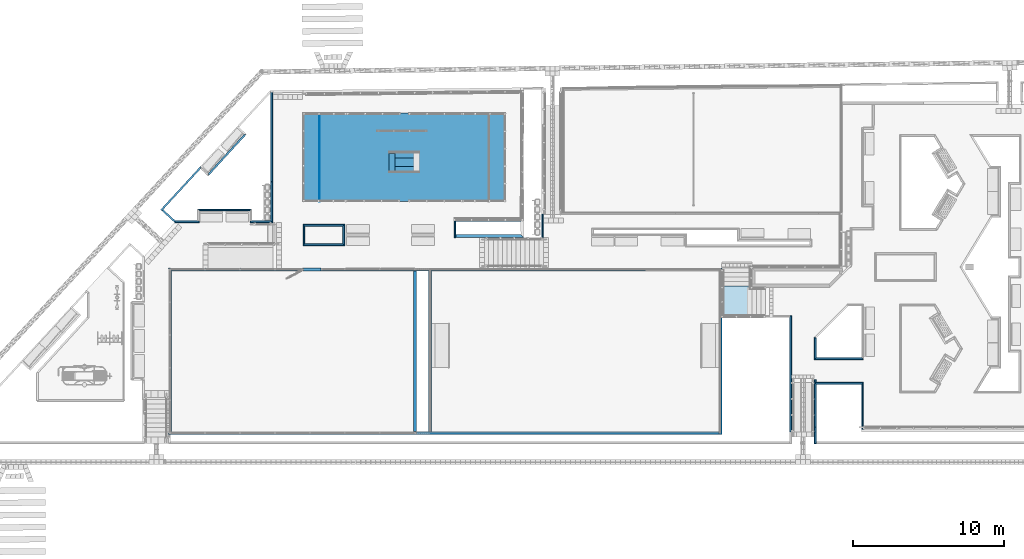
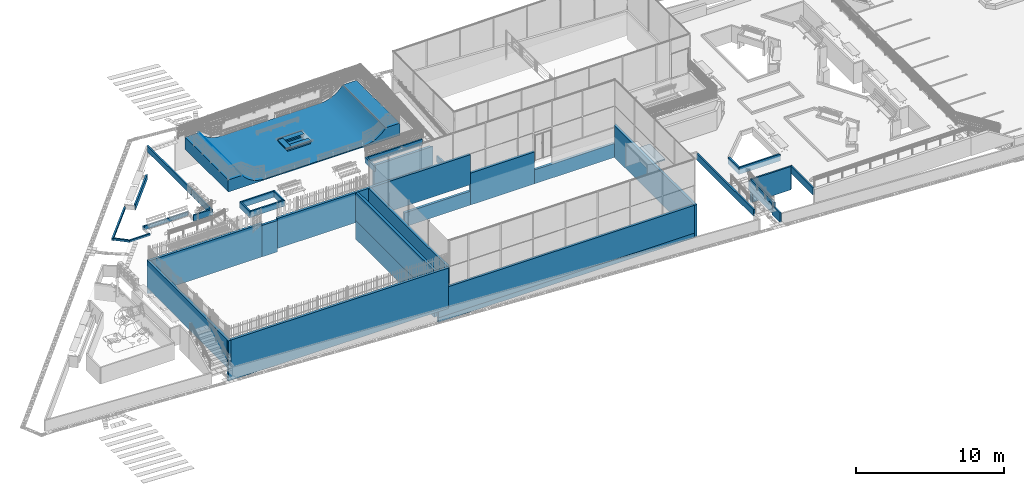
# One storey, part 17 of 237: 42 walls, 1 slab, 1 element without a shape of its own.
"""IFC2X3 building model written with IfcOpenShell, lengths in millimetres."""

from ifc_helpers import new_model, entity, si_unit, converted_unit, derived_unit, money_unit, point, direction, frame, frame_2d, origin_with_axes, place, context, subcontext, project, spatial, polyline, circle_curve, parameter, trimmed, segment, composite_curve, outline, extrude, faceted_brep, material, layer, layer_set, layer_usage, type_object, element, aggregate, save


model = new_model("IFC2X3")

# Units and contexts
model_context = context("Model", 3, precision=0.01, world=origin_with_axes(), true_north=direction((0.0, 1.0)))
body_context = subcontext(model_context, "Body", "Model", "MODEL_VIEW")
ifc_project = project(units=[si_unit("LENGTHUNIT", "METRE", prefix="MILLI"), si_unit("AREAUNIT", "SQUARE_METRE"), si_unit("VOLUMEUNIT", "CUBIC_METRE"), converted_unit("PLANEANGLEUNIT", "DEGREE", entity("IfcPlaneAngleMeasure", 0.0174532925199), si_unit("PLANEANGLEUNIT", "RADIAN"), dimensions=[0, 0, 0, 0, 0, 0, 0]), money_unit("USD"), converted_unit("TIMEUNIT", "Year", entity("IfcTimeMeasure", 31556926.0), si_unit("TIMEUNIT", "SECOND"), dimensions=[0, 0, 1, 0, 0, 0, 0]), si_unit("MASSUNIT", "GRAM", prefix="KILO"), si_unit("THERMODYNAMICTEMPERATUREUNIT", "DEGREE_CELSIUS"), si_unit("LUMINOUSINTENSITYUNIT", "LUMEN"), si_unit("ENERGYUNIT", "JOULE", prefix="MEGA"), derived_unit("THERMALCONDUCTANCEUNIT", [(si_unit("POWERUNIT", "WATT"), 1), (si_unit("LENGTHUNIT", "METRE"), -1), (si_unit("THERMODYNAMICTEMPERATUREUNIT", "KELVIN"), -1)]), derived_unit("SPECIFICHEATCAPACITYUNIT", [(si_unit("ENERGYUNIT", "JOULE"), 1), (si_unit("MASSUNIT", "GRAM", prefix="KILO"), -1), (si_unit("THERMODYNAMICTEMPERATUREUNIT", "KELVIN"), -1)]), derived_unit("MASSDENSITYUNIT", [(si_unit("MASSUNIT", "GRAM", prefix="KILO"), 1), (si_unit("VOLUMEUNIT", "CUBIC_METRE"), -1)])], contexts=[model_context])

# Site, building, storey
site_placement = place(None, origin_with_axes())
site = spatial("IfcSite", under=ifc_project, at=site_placement, Name="Local", CompositionType="ELEMENT")
building_placement = place(site_placement, origin_with_axes())
building = spatial("IfcBuilding", under=site, at=building_placement, Name="Construção", CompositionType="ELEMENT")
storey_placement = place(building_placement, origin_with_axes())
storey = spatial("IfcBuildingStorey", under=building, at=storey_placement, Name="Pavimento Térreo", CompositionType="ELEMENT", Elevation=0.0)

# Stair, slab
stair_placement = place(storey_placement, frame((81668.9594957, 22372.4191106, -5007.05726823), z_axis=(0.0, 0.0, 1.0), x_axis=(1.0, 0.0, 0.0)))
stair = element("IfcStair", 1, at=stair_placement, inside=storey, Name="Escada - 008", ShapeType="NOTDEFINED")
ifc_material_1 = material(Name="Concreto - Estrutural")
slab_type = type_object("IfcSlabType", Name="IfcSlab", PredefinedType="LANDING")
slab_placement = place(stair_placement, origin_with_axes())
slab = element("IfcSlab", 2, at=slab_placement, type_object=slab_type, material=ifc_material_1, Name="Patamar - 003", PredefinedType="LANDING", context=body_context, shape_type="Brep", body=[
    faceted_brep([(-899.999985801, 71.7544887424, 541.666666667), (-899.999985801, 71.7544887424, 641.666666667), (-899.999987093, 6.52813847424e-06, 641.666666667), (-899.999987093, 6.85454537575e-06, 541.666666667), (-2900.0, 71.7544887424, 641.666666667), (-2900.0, 71.7544887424, 541.666666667), (-2900.0, -2000.0, 641.666666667), (-914.999987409, -2000.0, 641.666666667), (-914.999987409, 6.85454537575e-06, 641.666666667), (-914.999987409, 6.85454537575e-06, 541.666666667), (-914.999987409, -2000.0, 541.666666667), (-2900.0, -2000.0, 541.666666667)], [[[0, 1, 2, 3]], [[4, 1, 0, 5]], [[1, 4, 6, 7, 8, 2]], [[9, 3, 2, 8]], [[5, 0, 3, 9, 10, 11]], [[4, 5, 11, 6]], [[11, 10, 7, 6]], [[9, 8, 7, 10]]]),
])
aggregate(stair, [slab])

# Walls
ifc_material_2 = material(Name="Bloco de Concreto - Estrutural")
ifc_layer_1 = layer(ifc_material_2, 120.0, ventilated="UNKNOWN")
ifc_layer_set_1 = layer_set([ifc_layer_1], Name="Bloco de Concreto - Estrutural 120")
ifc_layer_usage_1 = layer_usage(ifc_layer_set_1, "AXIS2", "NEGATIVE", 0.0)
wall_type_1 = type_object("IfcWallType", Name="Bloco de Concreto - Estrutural 120", PredefinedType="NOTDEFINED")
wall_1_placement = place(storey_placement, frame((53812.4441734, 26411.4515614, -1711.45174039), z_axis=(0.0, 0.0, 1.0), x_axis=(-1.0, 0.0, 0.0)))
element("IfcWallStandardCase", 3, at=wall_1_placement, inside=storey, type_object=wall_type_1, material=ifc_layer_usage_1, Name="Parede-086", context=body_context, shape_type="SweptSolid", body=[
    extrude(outline(polyline([(0.0, -120.0), (2750.00008075, -120.0), (2630.00008075, 0.0), (120.0, 0.0), (0.0, -120.0)])), origin_with_axes(), (0.0, 0.0, 1.0), 504.343543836),
])
ifc_layer_usage_2 = layer_usage(ifc_layer_set_1, "AXIS2", "NEGATIVE", 0.0)
wall_2_placement = place(storey_placement, frame((85006.2568793, 13112.0330846, -6009.33939984), z_axis=(0.0, 0.0, 1.0), x_axis=(1.30507928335e-05, -0.999999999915, 0.0)))
element("IfcWallStandardCase", 4, at=wall_2_placement, inside=storey, type_object=wall_type_1, material=ifc_layer_usage_2, Name="Parede-082", context=body_context, shape_type="SweptSolid", body=[
    extrude(outline(polyline([(-0.00588125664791, -120.0), (1089.40741677, -120.0), (1089.40741677, 0.0), (0.0, 0.0), (-0.00588125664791, -120.0)])), origin_with_axes(), (0.0, 0.0, 1.0), 799.843552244),
])
ifc_layer_usage_3 = layer_usage(ifc_layer_set_1, "AXIS2", "NEGATIVE", 0.0)
wall_3_placement = place(storey_placement, frame((41637.2132185, 27508.3613701, -1730.08817949), z_axis=(0.0, 0.0, 1.0), x_axis=(0.677327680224, 0.735681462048, 0.0)))
element("IfcWallStandardCase", 5, at=wall_3_placement, inside=storey, type_object=wall_type_1, material=ifc_layer_usage_3, Name="Parede-084", context=body_context, shape_type="SweptSolid", body=[
    extrude(outline(polyline([(0.0, -120.0), (3780.59511982, -120.0), (3900.26200772, 0.0), (0.0, 0.0), (0.0, -120.0)])), origin_with_axes(), (0.0, 0.0, 1.0), 196.987064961),
])
ifc_layer_usage_4 = layer_usage(ifc_layer_set_1, "AXIS2", "NEGATIVE", 0.0)
wall_4_placement = place(storey_placement, frame((83386.4921498, 20493.3341518, -5383.27351783), z_axis=(0.0, 0.0, 1.0), x_axis=(0.0, -1.0, 0.0)))
element("IfcWallStandardCase", 6, at=wall_4_placement, inside=storey, type_object=wall_type_1, material=ifc_layer_usage_4, Name="Parede-082", context=body_context, shape_type="SweptSolid", body=[
    extrude(outline(polyline([(0.0, -120.0), (7701.52251985, -120.0), (7701.52251985, 0.0), (0.0, 0.0), (0.0, -120.0)])), origin_with_axes(), (0.0, 0.0, 1.0), 540.786490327),
])
ifc_layer_usage_5 = layer_usage(ifc_layer_set_1, "AXIS2", "NEGATIVE", 0.0)
wall_5_placement = place(storey_placement, frame((84885.9033442, 16072.6595143, -6768.39424695), z_axis=(0.0, 0.0, 1.0), x_axis=(0.999999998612, 5.26912942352e-05, 0.0)))
element("IfcWallStandardCase", 7, at=wall_5_placement, inside=storey, type_object=wall_type_1, material=ifc_layer_usage_5, Name="Parede-087", context=body_context, shape_type="SweptSolid", body=[
    extrude(outline(polyline([(120.011283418, -120.0), (3134.22519922, -120.0), (3254.22910147, 0.0), (0.0, 0.0), (120.011283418, -120.0)])), origin_with_axes(), (0.0, 0.0, 1.0), 1928.34884743),
])
ifc_layer_usage_6 = layer_usage(ifc_layer_set_1, "AXIS2", "NEGATIVE", 0.0)
wall_6_placement = place(storey_placement, frame((85006.4496786, 19179.1408867, -5402.07510216), z_axis=(0.0, 0.0, 1.0), x_axis=(2.57940339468e-05, -0.999999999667, 0.0)))
element("IfcWallStandardCase", 8, at=wall_6_placement, inside=storey, type_object=wall_type_1, material=ifc_layer_usage_6, Name="Parede-088", context=body_context, shape_type="SweptSolid", body=[
    extrude(outline(polyline([(119.993809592, -120.0), (1607.32317381, -120.0), (1487.32626905, 0.0), (169.701250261, 0.0), (119.993809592, -120.0)])), origin_with_axes(), (0.0, 0.0, 1.0), 562.02970265),
])
ifc_layer_usage_7 = layer_usage(ifc_layer_set_1, "AXIS2", "NEGATIVE", 0.0)
wall_7_placement = place(storey_placement, frame((41718.4928542, 27596.6434867, -1700.0), z_axis=(0.0, 0.0, 1.0), x_axis=(0.737561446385, -0.675280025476, 0.0)))
element("IfcWallStandardCase", 9, at=wall_7_placement, inside=storey, type_object=wall_type_1, material=ifc_layer_usage_7, Name="Parede-084", context=body_context, shape_type="SweptSolid", body=[
    extrude(outline(polyline([(119.666887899, -120.0), (1261.23155279, -120.0), (1214.59515715, 0.0), (120.000463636, 0.0), (119.666887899, -120.0)])), origin_with_axes(), (0.0, 0.0, 1.0), 166.898885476),
])
ifc_layer_usage_8 = layer_usage(ifc_layer_set_1, "AXIS2", "NEGATIVE", 0.0)
wall_8_placement = place(storey_placement, frame((84886.384695, 12791.8118634, -5402.07510216), z_axis=(0.0, 0.0, 1.0), x_axis=(-0.000146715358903, 0.999999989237, 0.0)))
element("IfcWallStandardCase", 10, at=wall_8_placement, inside=storey, type_object=wall_type_1, material=ifc_layer_usage_8, Name="Parede-084", context=body_context, shape_type="SweptSolid", body=[
    extrude(outline(polyline([(0.0, -120.0), (3160.83640278, -120.0), (3280.8476862, 0.0), (0.0, 0.0), (0.0, -120.0)])), origin_with_axes(), (0.0, 0.0, 1.0), 560.929574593),
])
ifc_layer_usage_9 = layer_usage(ifc_layer_set_1, "AXIS2", "NEGATIVE", 0.0)
wall_9_placement = place(storey_placement, frame((66962.5028921, 27192.3083888, -3852.41502407), z_axis=(0.0, 0.0, 1.0), x_axis=(0.0, -1.0, 0.0)))
element("IfcWallStandardCase", 11, at=wall_9_placement, inside=storey, type_object=wall_type_1, material=ifc_layer_usage_9, Name="Parede-088", context=body_context, shape_type="SweptSolid", body=[
    extrude(outline(polyline([(0.0, -120.0), (1534.58306973, -120.0), (1534.58306973, 0.0), (0.0, 0.0), (0.0, -120.0)])), origin_with_axes(), (0.0, 0.0, 1.0), 495.357755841),
])
ifc_layer_usage_10 = layer_usage(ifc_layer_set_1, "AXIS2", "NEGATIVE", 0.0)
wall_10_placement = place(storey_placement, frame((44062.4440926, 27549.1539562, -1700.0), z_axis=(0.0, 0.0, 1.0), x_axis=(1.0, 0.0, 0.0)))
element("IfcWallStandardCase", 12, at=wall_10_placement, inside=storey, type_object=wall_type_1, material=ifc_layer_usage_10, Name="Parede-084", context=body_context, shape_type="SweptSolid", body=[
    extrude(outline(polyline([(120.0, -120.0), (3496.80416232, -120.0), (3616.80416232, 0.0), (0.0, 0.0), (120.0, -120.0)])), origin_with_axes(), (0.0, 0.0, 1.0), 307.068162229),
])
ifc_layer_usage_11 = layer_usage(ifc_layer_set_1, "AXIS2", "NEGATIVE", 0.0)
wall_11_placement = place(storey_placement, frame((88020.1945794, 12992.5663135, -5402.07510216), z_axis=(0.0, 0.0, 1.0), x_axis=(-2.01730313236e-05, 0.999999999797, 0.0)))
element("IfcWallStandardCase", 13, at=wall_11_placement, inside=storey, type_object=wall_type_1, material=ifc_layer_usage_11, Name="Parede-084", context=body_context, shape_type="SweptSolid", body=[
    extrude(outline(polyline([(0.0, -120.0), (3080.26225014, -120.0), (2960.25834789, 0.0), (0.0, 0.0), (0.0, -120.0)])), origin_with_axes(), (0.0, 0.0, 1.0), 560.929574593),
])
ifc_layer_usage_12 = layer_usage(ifc_layer_set_1, "AXIS2", "NEGATIVE", 0.0)
wall_12_placement = place(storey_placement, frame((49062.4440926, 26656.451638, -1700.0), z_axis=(0.0, 0.0, 1.0), x_axis=(-1.0, 0.0, 0.0)))
element("IfcWallStandardCase", 14, at=wall_12_placement, inside=storey, type_object=wall_type_1, material=ifc_layer_usage_12, Name="Parede-087", context=body_context, shape_type="SweptSolid", body=[
    extrude(outline(polyline([(120.003520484, -120.0), (1503.19583768, -120.0), (1503.19583768, 0.0), (0.0, 0.0), (120.003520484, -120.0)])), origin_with_axes(), (0.0, 0.0, 1.0), 488.482714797),
])
ifc_layer_usage_13 = layer_usage(ifc_layer_set_1, "AXIS2", "NEGATIVE", 0.0)
wall_13_placement = place(storey_placement, frame((49062.3648833, 29356.4387409, -1700.0), z_axis=(0.0, 0.0, 1.0), x_axis=(2.93369396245e-05, -0.99999999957, 0.0)))
element("IfcWallStandardCase", 15, at=wall_13_placement, inside=storey, type_object=wall_type_1, material=ifc_layer_usage_13, Name="Parede-086", context=body_context, shape_type="SweptSolid", body=[
    extrude(outline(polyline([(1.68055933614e-05, -120.0), (2579.9835836, -120.0), (2699.98710409, 0.0), (0.0, 0.0), (1.68055933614e-05, -120.0)])), origin_with_axes(), (0.0, 0.0, 1.0), 488.482714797),
])
ifc_layer_usage_14 = layer_usage(ifc_layer_set_1, "AXIS2", "NEGATIVE", 0.0)
wall_14_placement = place(storey_placement, frame((44182.4440926, 26656.451638, -1700.0), z_axis=(0.0, 0.0, 1.0), x_axis=(-1.0, 0.0, 0.0)))
element("IfcWallStandardCase", 16, at=wall_14_placement, inside=storey, type_object=wall_type_1, material=ifc_layer_usage_14, Name="Parede-083", context=body_context, shape_type="SweptSolid", body=[
    extrude(outline(polyline([(0.0, -120.0), (1568.11267754, -120.0), (1614.74907318, 0.0), (0.0, 0.0), (0.0, -120.0)])), origin_with_axes(), (0.0, 0.0, 1.0), 166.898885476),
])
ifc_layer_usage_15 = layer_usage(ifc_layer_set_1, "AXIS2", "NEGATIVE", 0.0)
wall_15_placement = place(storey_placement, frame((85006.4880428, 17691.8146182, -5402.07510216), z_axis=(0.0, 0.0, 1.0), x_axis=(1.0, 0.0, 0.0)))
element("IfcWallStandardCase", 17, at=wall_15_placement, inside=storey, type_object=wall_type_1, material=ifc_layer_usage_15, Name="Parede-088", context=body_context, shape_type="SweptSolid", body=[
    extrude(outline(polyline([(-119.996904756, -120.0), (3133.55642019, -120.0), (3013.55642019, 0.0), (0.0, 0.0), (-119.996904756, -120.0)])), origin_with_axes(), (0.0, 0.0, 1.0), 562.02970265),
])
ifc_layer_usage_16 = layer_usage(ifc_layer_set_1, "AXIS2", "NEGATIVE", 0.0)
wall_16_placement = place(storey_placement, frame((51182.4440926, 26411.4515614, -1711.45174039), z_axis=(0.0, 0.0, 1.0), x_axis=(0.0, -1.0, 0.0)))
element("IfcWallStandardCase", 18, at=wall_16_placement, inside=storey, type_object=wall_type_1, material=ifc_layer_usage_16, Name="Parede-087", context=body_context, shape_type="SweptSolid", body=[
    extrude(outline(polyline([(-120.0, -120.0), (1279.99984684, -120.0), (1159.99984684, 0.0), (0.0, 0.0), (-120.0, -120.0)])), origin_with_axes(), (0.0, 0.0, 1.0), 504.343543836),
])
ifc_layer_usage_17 = layer_usage(ifc_layer_set_1, "AXIS2", "NEGATIVE", 0.0)
wall_17_placement = place(storey_placement, frame((51182.4440926, 25251.4517146, -1711.45174039), z_axis=(0.0, 0.0, 1.0), x_axis=(1.0, 0.0, 0.0)))
element("IfcWallStandardCase", 19, at=wall_17_placement, inside=storey, type_object=wall_type_1, material=ifc_layer_usage_17, Name="Parede-088", context=body_context, shape_type="SweptSolid", body=[
    extrude(outline(polyline([(-120.0, -120.0), (2630.00008075, -120.0), (2510.00008075, 0.0), (0.0, 0.0), (-120.0, -120.0)])), origin_with_axes(), (0.0, 0.0, 1.0), 504.343543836),
])
ifc_layer_usage_18 = layer_usage(ifc_layer_set_1, "AXIS2", "NEGATIVE", 0.0)
wall_18_placement = place(storey_placement, frame((61062.4474333, 25656.5254193, -1736.1121394), z_axis=(0.0, 0.0, 1.0), x_axis=(-0.000136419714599, 0.999999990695, 0.0)))
element("IfcWallStandardCase", 20, at=wall_18_placement, inside=storey, type_object=wall_type_1, material=ifc_layer_usage_18, Name="Parede-088", context=body_context, shape_type="SweptSolid", body=[
    extrude(outline(polyline([(0.0, -120.0), (1186.47542196, -120.0), (1186.47542196, 0.0), (0.0, 0.0), (0.0, -120.0)])), origin_with_axes(), (0.0, 0.0, 1.0), 501.230381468),
])
ifc_layer_usage_19 = layer_usage(ifc_layer_set_1, "AXIS2", "NEGATIVE", 0.0)
wall_19_placement = place(storey_placement, frame((65467.09706, 26725.2286527, -1736.1121394), z_axis=(0.0, 0.0, 1.0), x_axis=(-0.999999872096, -0.000505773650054, 0.0)))
element("IfcWallStandardCase", 21, at=wall_19_placement, inside=storey, type_object=wall_type_1, material=ifc_layer_usage_19, Name="Parede-090", context=body_context, shape_type="SweptSolid", body=[
    extrude(outline(polyline([(0.0, -120.0), (4404.75135586, -120.0), (4404.75135586, 0.0), (0.0, 0.0), (0.0, -120.0)])), origin_with_axes(), (0.0, 0.0, 1.0), 501.230381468),
])
ifc_layer_usage_20 = layer_usage(ifc_layer_set_1, "AXIS2", "NEGATIVE", 0.0)
wall_20_placement = place(storey_placement, frame((53812.4441734, 26411.4515614, -1711.45174039), z_axis=(0.0, 0.0, 1.0), x_axis=(0.0, -1.0, 0.0)))
element("IfcWallStandardCase", 22, at=wall_20_placement, inside=storey, type_object=wall_type_1, material=ifc_layer_usage_20, Name="Parede-086", context=body_context, shape_type="SweptSolid", body=[
    extrude(outline(polyline([(0.0, -120.0), (1159.99984684, -120.0), (1279.99984684, 0.0), (-120.0, 0.0), (0.0, -120.0)])), origin_with_axes(), (0.0, 0.0, 1.0), 504.343543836),
])
ifc_layer_usage_21 = layer_usage(ifc_layer_set_1, "AXIS2", "NEGATIVE", 0.0)
wall_21_placement = place(storey_placement, frame((85006.5244537, 16261.0734898, -5873.34529408), z_axis=(0.0, 0.0, 1.0), x_axis=(-8.49701511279e-05, -0.99999999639, 0.0)))
element("IfcWallStandardCase", 23, at=wall_21_placement, inside=storey, type_object=wall_type_1, material=ifc_layer_usage_21, Name="Parede-082", context=body_context, shape_type="SweptSolid", body=[
    extrude(outline(polyline([(0.0, -120.0), (3149.0462978, -120.0), (3149.04041654, 0.0), (0.0, 0.0), (0.0, -120.0)])), origin_with_axes(), (0.0, 0.0, 1.0), 787.974602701),
])
ifc_layer_usage_22 = layer_usage(ifc_layer_set_1, "AXIS2", "NEGATIVE", 0.0)
wall_22_placement = place(storey_placement, frame((49062.1864086, 35382.5205032, -1700.0), z_axis=(0.0, 0.0, 1.0), x_axis=(2.96170328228e-05, -0.999999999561, 0.0)))
element("IfcWallStandardCase", 24, at=wall_22_placement, inside=storey, type_object=wall_type_1, material=ifc_layer_usage_22, Name="Parede-086", context=body_context, shape_type="SweptSolid", body=[
    extrude(outline(polyline([(0.0, -120.0), (6026.08174812, -120.0), (6026.08176492, 0.0), (0.0, 0.0), (0.0, -120.0)])), origin_with_axes(), (0.0, 0.0, 1.0), 487.017916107),
])
ifc_layer_usage_23 = layer_usage(ifc_layer_set_1, "AXIS2", "NEGATIVE", 0.0)
wall_23_placement = place(storey_placement, frame((47328.0546458, 32493.8286475, -1700.0), z_axis=(0.0, 0.0, 1.0), x_axis=(-0.675476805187, -0.737381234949, 0.0)))
element("IfcWallStandardCase", 25, at=wall_23_placement, inside=storey, type_object=wall_type_1, material=ifc_layer_usage_23, Name="Parede-084", context=body_context, shape_type="SweptSolid", body=[
    extrude(outline(polyline([(120.065487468, -120.0), (3619.78520989, -120.0), (3739.75319452, 0.0), (0.0, 0.0), (120.065487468, -120.0)])), origin_with_axes(), (0.0, 0.0, 1.0), 448.642075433),
])
ifc_layer_2 = layer(ifc_material_2, 200.0, ventilated="UNKNOWN")
ifc_layer_set_2 = layer_set([ifc_layer_2], Name="Bloco de Concreto - Estrutural 200")
ifc_layer_usage_24 = layer_usage(ifc_layer_set_2, "AXIS2", "NEGATIVE", 0.0)
wall_type_2 = type_object("IfcWallType", Name="Bloco de Concreto - Estrutural 200", PredefinedType="NOTDEFINED")
wall_24_placement = place(storey_placement, frame((42162.4440926, 12822.6236011, -4506.59653734), z_axis=(0.0, 0.0, 1.0), x_axis=(1.0, 0.0, 0.0)))
element("IfcWallStandardCase", 26, at=wall_24_placement, inside=storey, type_object=wall_type_2, material=ifc_layer_usage_24, Name="Parede-083", context=body_context, shape_type="SweptSolid", body=[
    extrude(outline(polyline([(0.0, -200.0), (17203.2753894, -200.0), (17203.2753894, 0.0), (0.0, 0.0), (0.0, -200.0)])), origin_with_axes(), (0.0, 0.0, 1.0), 3332.73301839),
])
ifc_layer_usage_25 = layer_usage(ifc_layer_set_2, "AXIS2", "NEGATIVE", 0.0)
wall_25_placement = place(storey_placement, frame((42366.5219995, 23456.451638, -3475.04995358), z_axis=(0.0, 0.0, 1.0), x_axis=(-0.000376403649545, -0.99999992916, 0.0)))
element("IfcWallStandardCase", 27, at=wall_25_placement, inside=storey, type_object=wall_type_2, material=ifc_layer_usage_25, Name="Parede-084", context=body_context, shape_type="SweptSolid", body=[
    extrude(outline(polyline([(-199.915303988, -200.0), (10833.9040851, -200.0), (10833.9040851, 0.0), (0.0, 0.0), (-199.915303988, -200.0)])), origin_with_axes(), (0.0, 0.0, 1.0), 2301.18643463),
])
ifc_layer_usage_26 = layer_usage(ifc_layer_set_2, "AXIS2", "NEGATIVE", 0.0)
wall_26_placement = place(storey_placement, frame((58565.7194821, 12822.6236011, -5019.28683791), z_axis=(0.0, 0.0, 1.0), x_axis=(1.0, 0.0, 0.0)))
element("IfcWallStandardCase", 28, at=wall_26_placement, inside=storey, type_object=wall_type_2, material=ifc_layer_usage_26, Name="Parede-083", context=body_context, shape_type="SweptSolid", body=[
    extrude(outline(polyline([(0.0, -200.0), (20003.1386501, -200.0), (20003.1409703, 0.0), (0.0, 0.0), (0.0, -200.0)])), origin_with_axes(), (0.0, 0.0, 1.0), 2297.39222874),
])
ifc_layer_usage_27 = layer_usage(ifc_layer_set_2, "AXIS2", "NEGATIVE", 0.0)
wall_27_placement = place(storey_placement, frame((58568.8604523, 12822.6236011, -5401.2283764), z_axis=(0.0, 0.0, 1.0), x_axis=(1.0, 0.0, 0.0)))
element("IfcWallStandardCase", 29, at=wall_27_placement, inside=storey, type_object=wall_type_2, material=ifc_layer_usage_27, Name="Parede-083", context=body_context, shape_type="SweptSolid", body=[
    extrude(outline(polyline([(0.0, -200.0), (19999.9976798, -200.0), (20000.0, 0.0), (0.0, 0.0), (0.0, -200.0)])), origin_with_axes(), (0.0, 0.0, 1.0), 2679.33376723),
])
ifc_layer_usage_28 = layer_usage(ifc_layer_set_2, "AXIS2", "NEGATIVE", 0.0)
wall_28_placement = place(storey_placement, frame((58365.7194821, 12822.6236011, -5019.28683791), z_axis=(0.0, 0.0, 1.0), x_axis=(0.0, 1.0, 0.0)))
element("IfcWallStandardCase", 30, at=wall_28_placement, inside=storey, type_object=wall_type_2, material=ifc_layer_usage_28, Name="Parede-083", context=body_context, shape_type="SweptSolid", body=[
    extrude(outline(polyline([(0.0, -200.0), (10633.8280369, -200.0), (10633.8280369, 0.0), (0.0, 0.0), (0.0, -200.0)])), origin_with_axes(), (0.0, 0.0, 1.0), 1544.23688433),
])
ifc_layer_usage_29 = layer_usage(ifc_layer_set_2, "AXIS2", "NEGATIVE", 0.0)
wall_29_placement = place(storey_placement, frame((61062.3462786, 25856.5253937, -3986.62815507), z_axis=(0.0, 0.0, 1.0), x_axis=(0.999999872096, 0.000505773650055, 0.0)))
element("IfcWallStandardCase", 31, at=wall_29_placement, inside=storey, type_object=wall_type_2, material=ifc_layer_usage_29, Name="Parede-090", context=body_context, shape_type="SweptSolid", body=[
    extrude(outline(polyline([(0.0, -200.0), (4605.40654281, -200.0), (4405.39874605, 0.0), (0.0, 0.0), (0.0, -200.0)])), origin_with_axes(), (0.0, 0.0, 1.0), 2751.74639713),
])
ifc_layer_usage_30 = layer_usage(ifc_layer_set_2, "AXIS2", "NEGATIVE", 0.0)
wall_30_placement = place(storey_placement, frame((58365.7194821, 12822.6236011, -3475.04995358), z_axis=(0.0, 0.0, 1.0), x_axis=(0.0, 1.0, 0.0)))
element("IfcWallStandardCase", 32, at=wall_30_placement, inside=storey, type_object=wall_type_2, material=ifc_layer_usage_30, Name="Parede-083", context=body_context, shape_type="SweptSolid", body=[
    extrude(outline(polyline([(0.0, -200.0), (10633.8280369, -200.0), (10633.8280369, 0.0), (0.0, 0.0), (0.0, -200.0)])), origin_with_axes(), (0.0, 0.0, 1.0), 2301.18643463),
])
ifc_layer_usage_31 = layer_usage(ifc_layer_set_2, "AXIS2", "NEGATIVE", 0.0)
wall_31_placement = place(storey_placement, frame((78768.9838257, 23457.217622, -5345.5646423), z_axis=(0.0, 0.0, 1.0), x_axis=(-0.999999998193, -6.01228211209e-05, 0.0)))
element("IfcWallStandardCase", 33, at=wall_31_placement, inside=storey, type_object=wall_type_2, material=ifc_layer_usage_31, Name="Parede-086", context=body_context, shape_type="SweptSolid", body=[
    extrude(outline(polyline([(0.0, -200.0), (16602.3865897, -200.0), (16602.3865897, 0.0), (0.0, 0.0), (0.0, -200.0)])), origin_with_axes(), (0.0, 0.0, 1.0), 1153.58793025),
])
ifc_layer_usage_32 = layer_usage(ifc_layer_set_2, "AXIS2", "NEGATIVE", 0.0)
wall_32_placement = place(storey_placement, frame((72329.9567485, 23456.2044178, -5345.5646423), z_axis=(0.0, 0.0, 1.0), x_axis=(-0.999999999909, 1.35252461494e-05, 0.0)))
element("IfcWallStandardCase", 34, at=wall_32_placement, inside=storey, type_object=wall_type_2, material=ifc_layer_usage_32, Name="Parede-086", context=body_context, shape_type="SweptSolid", body=[
    extrude(outline(polyline([(0.0, -200.0), (5017.507325, -200.0), (5017.507325, 0.0), (0.0, 0.0), (0.0, -200.0)])), origin_with_axes(), (0.0, 0.0, 1.0), 2639.9682764),
])
ifc_layer_usage_33 = layer_usage(ifc_layer_set_2, "AXIS2", "NEGATIVE", 0.0)
wall_33_placement = place(storey_placement, frame((78568.8581326, 12622.6676591, -5345.5646423), z_axis=(0.0, 0.0, 1.0), x_axis=(1.1601136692e-05, 0.999999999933, 0.0)))
element("IfcWallStandardCase", 35, at=wall_33_placement, inside=storey, type_object=wall_type_2, material=ifc_layer_usage_33, Name="Parede-086", context=body_context, shape_type="SweptSolid", body=[
    extrude(outline(polyline([(0.0, -200.0), (11034.835895, -200.0), (10834.8103279, 0.0), (0.0, 0.0), (0.0, -200.0)])), origin_with_axes(), (0.0, 0.0, 1.0), 2623.67003313),
])
ifc_layer_usage_34 = layer_usage(ifc_layer_set_2, "AXIS2", "NEGATIVE", 0.0)
wall_34_placement = place(storey_placement, frame((67312.4440806, 23456.3057491, -3657.48082284), z_axis=(0.0, 0.0, 1.0), x_axis=(-0.999999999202, 3.99477375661e-05, 0.0)))
element("IfcWallStandardCase", 36, at=wall_34_placement, inside=storey, type_object=wall_type_2, material=ifc_layer_usage_34, Name="Parede-083", context=body_context, shape_type="SweptSolid", body=[
    extrude(outline(polyline([(0.0, -200.0), (15050.0077591, -200.0), (15050.0, 0.0), (0.0, 0.0), (0.0, -200.0)])), origin_with_axes(), (0.0, 0.0, 1.0), 2483.61730389),
])
ifc_layer_usage_35 = layer_usage(ifc_layer_set_2, "AXIS2", "NEGATIVE", 0.0)
wall_35_placement = place(storey_placement, frame((59365.7194821, 12822.6236011, -5019.28683791), z_axis=(0.0, 0.0, 1.0), x_axis=(0.0, 1.0, 0.0)))
element("IfcWallStandardCase", 37, at=wall_35_placement, inside=storey, type_object=wall_type_2, material=ifc_layer_usage_35, Name="Parede-083", context=body_context, shape_type="SweptSolid", body=[
    extrude(outline(polyline([(0.0, -200.0), (10633.8280369, -200.0), (10633.8280369, 0.0), (0.0, 0.0), (0.0, -200.0)])), origin_with_axes(), (0.0, 0.0, 1.0), 3845.42331896),
])
ifc_layer_usage_36 = layer_usage(ifc_layer_set_2, "AXIS2", "NEGATIVE", 0.0)
wall_36_placement = place(storey_placement, frame((52262.4440926, 23456.9069625, -3925.60991608), z_axis=(0.0, 0.0, 1.0), x_axis=(-0.999999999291, -3.7643296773e-05, 0.0)))
element("IfcWallStandardCase", 38, at=wall_36_placement, inside=storey, type_object=wall_type_2, material=ifc_layer_usage_36, Name="Parede-090", context=body_context, shape_type="SweptSolid", body=[
    extrude(outline(polyline([(-0.00775910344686, -200.0), (1200.00095313, -200.0), (1200.00000085, 0.0), (0.0, 0.0), (-0.00775910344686, -200.0)])), origin_with_axes(), (0.0, 0.0, 1.0), 2588.15330907),
])
ifc_layer_usage_37 = layer_usage(ifc_layer_set_2, "AXIS2", "NEGATIVE", 0.0)
wall_37_placement = place(storey_placement, frame((51062.4440926, 23456.8617906, -3925.60991608), z_axis=(0.0, 0.0, 1.0), x_axis=(-0.999999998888, -4.71660808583e-05, 0.0)))
element("IfcWallStandardCase", 39, at=wall_37_placement, inside=storey, type_object=wall_type_2, material=ifc_layer_usage_37, Name="Parede-090", context=body_context, shape_type="SweptSolid", body=[
    extrude(outline(polyline([(-0.000952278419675, -200.0), (8895.83740679, -200.0), (8695.9221028, 0.0), (0.0, 0.0), (-0.000952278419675, -200.0)])), origin_with_axes(), (0.0, 0.0, 1.0), 2751.74639713),
])
ifc_material_3 = material(Name="Concreto Armado - Estrutural")
wall_type_3 = type_object("IfcWallType", Name="Floreira skate 400 x 450", PredefinedType="NOTDEFINED")
wall_38_placement = place(storey_placement, frame((56862.4440926, 30078.1381603, -1410.0), z_axis=(0.0, 0.0, 1.0), x_axis=(1.0, 0.0, 0.0)))
element("IfcWall", 40, at=wall_38_placement, inside=storey, type_object=wall_type_3, material=ifc_material_3, Name="Parede-096", context=body_context, shape_type="SweptSolid", body=[
    extrude(outline(polyline([(0.0, 350.0), (0.0, 0.0), (200.0, 0.0), (200.0, 350.0), (300.0, 350.0), (300.0, 450.0), (-100.0, 450.0), (-100.0, 350.0), (0.0, 350.0)])), frame((0.0, 0.0, 0.0), z_axis=(1.0, 0.0, 0.0), x_axis=(0.0, 1.0, 0.0)), (0.0, 0.0, 1.0), 1800.0),
])
wall_39_placement = place(storey_placement, frame((56862.4440926, 31228.4935095, -1410.0), z_axis=(0.0, 0.0, 1.0), x_axis=(0.0, -1.0, 0.0)))
element("IfcWall", 41, at=wall_39_placement, inside=storey, type_object=wall_type_3, material=ifc_material_3, Name="Parede-095", context=body_context, shape_type="SweptSolid", body=[
    extrude(outline(polyline([(0.0, 350.0), (0.0, 0.0), (200.0, 0.0), (200.0, 350.0), (300.0, 350.0), (300.0, 450.0), (-100.0, 450.0), (-100.0, 350.0), (0.0, 350.0)])), frame((0.0, 0.0, 0.0), z_axis=(1.0, 0.0, 0.0), x_axis=(0.0, 1.0, 0.0)), (0.0, 0.0, 1.0), 1150.35534917),
])
wall_40_placement = place(storey_placement, frame((58662.4440926, 31228.4935095, -1410.0), z_axis=(0.0, 0.0, 1.0), x_axis=(-1.0, 0.0, 0.0)))
element("IfcWall", 42, at=wall_40_placement, inside=storey, type_object=wall_type_3, material=ifc_material_3, Name="Parede-094", context=body_context, shape_type="SweptSolid", body=[
    extrude(outline(polyline([(0.0, 350.0), (0.0, 0.0), (200.0, 0.0), (200.0, 350.0), (300.0, 350.0), (300.0, 450.0), (-100.0, 450.0), (-100.0, 350.0), (0.0, 350.0)])), frame((0.0, 0.0, 0.0), z_axis=(1.0, 0.0, 0.0), x_axis=(0.0, 1.0, 0.0)), (0.0, 0.0, 1.0), 1800.0),
])
ifc_material_4 = material(Name="Concreto - Contra Piso")
wall_type_4 = type_object("IfcWallType", Name="Rampa Nova 01 13400 x 1000", PredefinedType="NOTDEFINED")
wall_41_placement = place(storey_placement, frame((51062.4440926, 33894.9362539, -1357.10819655), z_axis=(0.0, 0.0, 1.0), x_axis=(0.0, -1.0, 0.0)))
element("IfcWall", 43, at=wall_41_placement, inside=storey, type_object=wall_type_4, material=ifc_material_4, Name="Parede-092", context=body_context, shape_type="SweptSolid", body=[
    extrude(outline(composite_curve([segment(polyline([(10500.0, 100.0), (2900.0, 100.0)]), True, "CONTINUOUS"), segment(trimmed(circle_curve(frame_2d((2849.70583145, 2249.4116629), x_axis=(-0.813816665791, -0.581121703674)), 2150.0), [point((2900.0, 100.0)), parameter(55.8109455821)], [point((1100.0, 1000.0)), parameter(0.0)], False, "CARTESIAN"), True, "CONTINUOUS"), segment(polyline([(1100.0, 1000.0), (0.0, 1000.0), (0.0, 0.0), (13400.0, 0.0), (13400.0, 1000.0), (12300.0, 1000.0)]), True, "CONTINUOUS"), segment(trimmed(circle_curve(frame_2d((10550.2941686, 2249.4116629), x_axis=(-0.0233926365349, -0.999726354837)), 2150.0), [point((12300.0, 1000.0)), parameter(55.8109455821)], [point((10500.0, 100.0)), parameter(0.0)], False, "CARTESIAN"), True, "CONTINUOUS")], self_intersect=False)), frame((0.0, 0.0, 0.0), z_axis=(1.0, 0.0, 0.0), x_axis=(0.0, 1.0, 0.0)), (0.0, 0.0, 1.0), 5850.0),
])
ifc_material_5 = material(Name="Ferro")
wall_type_5 = type_object("IfcWallType", Name="Perfil Skate 32 x 17", PredefinedType="NOTDEFINED")
wall_42_placement = place(storey_placement, frame((52173.9228298, 28043.8725515, -373.486187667), z_axis=(0.0, 0.0, 1.0), x_axis=(0.0, 1.0, 0.0)))
element("IfcWall", 44, at=wall_42_placement, inside=storey, type_object=wall_type_5, material=ifc_material_5, Name="Parede-083", context=body_context, shape_type="SweptSolid", body=[
    extrude(outline(polyline([(0.818899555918, 0.573936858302), (-10.9584497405, 17.3779911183), (-31.4787371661, 17.3779911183), (-31.4787371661, 16.3779911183), (-11.478737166, 16.3779911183), (0.0, 0.0), (0.818899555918, 0.573936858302)])), frame((0.0, 0.0, 0.0), z_axis=(-1.0, 0.0, 0.0), x_axis=(0.0, -1.0, 0.0)), (0.0, 0.0, -1.0), 5850.1744945),
])

save(model, "model.ifc")
